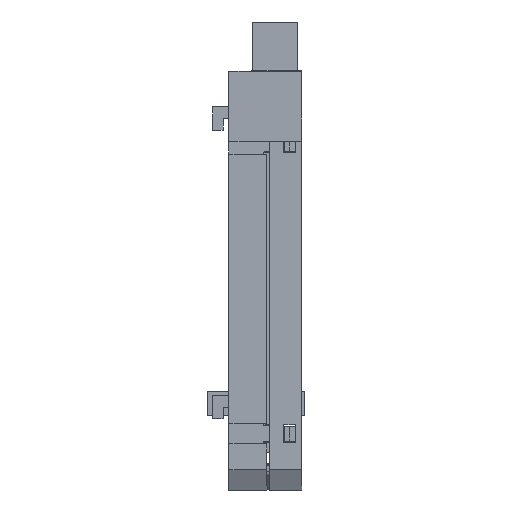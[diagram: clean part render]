
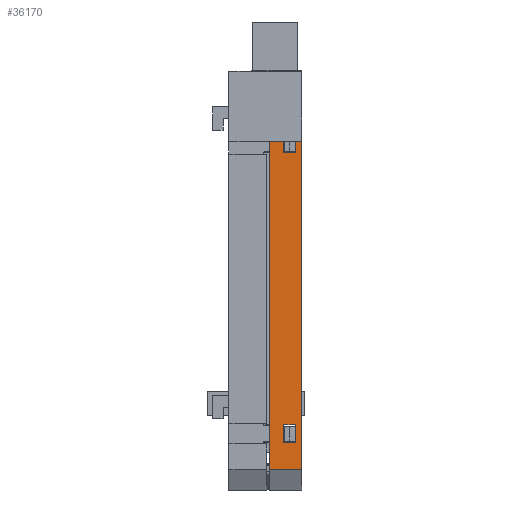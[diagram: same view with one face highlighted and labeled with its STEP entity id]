
A CAD part, front view. The second image highlights one B-rep face of the part: STEP entity #36170.
In plain terms, the highlighted planar face has unit normal (0, -1, 0).
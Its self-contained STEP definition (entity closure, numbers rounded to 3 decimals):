
#96 = VECTOR ( 'NONE', #32344, 1000. ) ;
#479 = CARTESIAN_POINT ( 'NONE',  ( 4.4, 0., -60.645 ) ) ;
#715 = FACE_BOUND ( 'NONE', #25592, .T. ) ;
#735 = ORIENTED_EDGE ( 'NONE', *, *, #24308, .T. ) ;
#1661 = CARTESIAN_POINT ( 'NONE',  ( 2.4, 0., -60.645 ) ) ;
#1747 = ORIENTED_EDGE ( 'NONE', *, *, #21640, .T. ) ;
#2006 = ORIENTED_EDGE ( 'NONE', *, *, #16057, .T. ) ;
#2907 = LINE ( 'NONE', #10638, #9647 ) ;
#2968 = VERTEX_POINT ( 'NONE', #5490 ) ;
#3314 = VERTEX_POINT ( 'NONE', #7544 ) ;
#3396 = DIRECTION ( 'NONE',  ( 0., 0., -1. ) ) ;
#3615 = ORIENTED_EDGE ( 'NONE', *, *, #21256, .F. ) ;
#3793 = CARTESIAN_POINT ( 'NONE',  ( 5.5, 0., 0. ) ) ;
#4006 = VECTOR ( 'NONE', #4195, 1000. ) ;
#4195 = DIRECTION ( 'NONE',  ( -1., 0., 0. ) ) ;
#4200 = ORIENTED_EDGE ( 'NONE', *, *, #27602, .T. ) ;
#4841 = CARTESIAN_POINT ( 'NONE',  ( 5.5, 0., 0. ) ) ;
#5054 = DIRECTION ( 'NONE',  ( 1., 0., 0. ) ) ;
#5216 = LINE ( 'NONE', #28704, #27255 ) ;
#5490 = CARTESIAN_POINT ( 'NONE',  ( 4.4, 0., -57.545 ) ) ;
#6316 = ORIENTED_EDGE ( 'NONE', *, *, #36355, .T. ) ;
#6372 = VERTEX_POINT ( 'NONE', #22595 ) ;
#6663 = LINE ( 'NONE', #7559, #21968 ) ;
#6917 = VERTEX_POINT ( 'NONE', #19158 ) ;
#6940 = VERTEX_POINT ( 'NONE', #7946 ) ;
#7259 = VERTEX_POINT ( 'NONE', #32941 ) ;
#7544 = CARTESIAN_POINT ( 'NONE',  ( 0., 0., 0. ) ) ;
#7559 = CARTESIAN_POINT ( 'NONE',  ( 2.4, 0., -7.845 ) ) ;
#7705 = DIRECTION ( 'NONE',  ( 0., 0., 1. ) ) ;
#7946 = CARTESIAN_POINT ( 'NONE',  ( 2.4, 0., -7.845 ) ) ;
#8354 = FACE_OUTER_BOUND ( 'NONE', #21696, .T. ) ;
#8439 = CARTESIAN_POINT ( 'NONE',  ( 5.5, 0., 0. ) ) ;
#8816 = VECTOR ( 'NONE', #26830, 1000. ) ;
#9482 = ORIENTED_EDGE ( 'NONE', *, *, #22439, .F. ) ;
#9647 = VECTOR ( 'NONE', #13540, 1000. ) ;
#9753 = EDGE_CURVE ( 'NONE', #33305, #3314, #14729, .T. ) ;
#10375 = EDGE_LOOP ( 'NONE', ( #20391, #10418, #735, #6316 ) ) ;
#10418 = ORIENTED_EDGE ( 'NONE', *, *, #29281, .T. ) ;
#10638 = CARTESIAN_POINT ( 'NONE',  ( 0., 0., 0. ) ) ;
#10856 = DIRECTION ( 'NONE',  ( 0., 0., 1. ) ) ;
#11853 = VERTEX_POINT ( 'NONE', #1661 ) ;
#12621 = VECTOR ( 'NONE', #3396, 1000. ) ;
#13540 = DIRECTION ( 'NONE',  ( 0., 0., -1. ) ) ;
#14004 = CARTESIAN_POINT ( 'NONE',  ( 4.4, 0., -10.945 ) ) ;
#14390 = CARTESIAN_POINT ( 'NONE',  ( 2.4, 0., -57.545 ) ) ;
#14458 = LINE ( 'NONE', #479, #12621 ) ;
#14729 = LINE ( 'NONE', #3793, #30896 ) ;
#15386 = LINE ( 'NONE', #18010, #96 ) ;
#15964 = AXIS2_PLACEMENT_3D ( 'NONE', #4841, #24972, #7705 ) ;
#16057 = EDGE_CURVE ( 'NONE', #31608, #2968, #35044, .T. ) ;
#16155 = PLANE ( 'NONE',  #15964 ) ;
#16951 = ORIENTED_EDGE ( 'NONE', *, *, #9753, .T. ) ;
#17004 = VERTEX_POINT ( 'NONE', #29121 ) ;
#18010 = CARTESIAN_POINT ( 'NONE',  ( 5.5, 0., 0. ) ) ;
#18261 = DIRECTION ( 'NONE',  ( -1., 0., 0. ) ) ;
#18446 = CARTESIAN_POINT ( 'NONE',  ( 0., 0., -65.25 ) ) ;
#18493 = VECTOR ( 'NONE', #25608, 1000. ) ;
#19158 = CARTESIAN_POINT ( 'NONE',  ( 5.5, 0., -65.25 ) ) ;
#19323 = LINE ( 'NONE', #21437, #4006 ) ;
#19881 = DIRECTION ( 'NONE',  ( 0., 0., -1. ) ) ;
#20391 = ORIENTED_EDGE ( 'NONE', *, *, #34325, .T. ) ;
#20892 = VERTEX_POINT ( 'NONE', #14004 ) ;
#21256 = EDGE_CURVE ( 'NONE', #33305, #6917, #15386, .T. ) ;
#21437 = CARTESIAN_POINT ( 'NONE',  ( 5.5, 0., -65.25 ) ) ;
#21640 = EDGE_CURVE ( 'NONE', #2968, #7259, #14458, .T. ) ;
#21696 = EDGE_LOOP ( 'NONE', ( #4200, #9482, #3615, #16951 ) ) ;
#21968 = VECTOR ( 'NONE', #36235, 1000. ) ;
#22280 = CARTESIAN_POINT ( 'NONE',  ( 2.4, 0., -57.545 ) ) ;
#22439 = EDGE_CURVE ( 'NONE', #6917, #30252, #19323, .T. ) ;
#22544 = VECTOR ( 'NONE', #19881, 1000. ) ;
#22595 = CARTESIAN_POINT ( 'NONE',  ( 4.4, 0., -7.845 ) ) ;
#22678 = CARTESIAN_POINT ( 'NONE',  ( 2.4, 0., -60.645 ) ) ;
#22790 = FACE_BOUND ( 'NONE', #10375, .T. ) ;
#24195 = ORIENTED_EDGE ( 'NONE', *, *, #26861, .T. ) ;
#24308 = EDGE_CURVE ( 'NONE', #6372, #20892, #30141, .T. ) ;
#24972 = DIRECTION ( 'NONE',  ( 0., 1., 0. ) ) ;
#25058 = LINE ( 'NONE', #29932, #8816 ) ;
#25592 = EDGE_LOOP ( 'NONE', ( #26195, #24195, #2006, #1747 ) ) ;
#25608 = DIRECTION ( 'NONE',  ( -1., 0., 0. ) ) ;
#26150 = LINE ( 'NONE', #22678, #18493 ) ;
#26195 = ORIENTED_EDGE ( 'NONE', *, *, #33273, .T. ) ;
#26830 = DIRECTION ( 'NONE',  ( 0., 0., 1. ) ) ;
#26861 = EDGE_CURVE ( 'NONE', #11853, #31608, #25058, .T. ) ;
#27255 = VECTOR ( 'NONE', #31585, 1000. ) ;
#27602 = EDGE_CURVE ( 'NONE', #3314, #30252, #2907, .T. ) ;
#28292 = CARTESIAN_POINT ( 'NONE',  ( 4.4, 0., -10.945 ) ) ;
#28704 = CARTESIAN_POINT ( 'NONE',  ( 2.4, 0., -10.945 ) ) ;
#29121 = CARTESIAN_POINT ( 'NONE',  ( 2.4, 0., -10.945 ) ) ;
#29281 = EDGE_CURVE ( 'NONE', #6940, #6372, #6663, .T. ) ;
#29932 = CARTESIAN_POINT ( 'NONE',  ( 2.4, 0., -60.645 ) ) ;
#30121 = VECTOR ( 'NONE', #10856, 1000. ) ;
#30141 = LINE ( 'NONE', #28292, #22544 ) ;
#30252 = VERTEX_POINT ( 'NONE', #18446 ) ;
#30896 = VECTOR ( 'NONE', #18261, 1000. ) ;
#30977 = CARTESIAN_POINT ( 'NONE',  ( 2.4, 0., -10.945 ) ) ;
#31033 = LINE ( 'NONE', #30977, #30121 ) ;
#31585 = DIRECTION ( 'NONE',  ( -1., 0., 0. ) ) ;
#31608 = VERTEX_POINT ( 'NONE', #14390 ) ;
#32344 = DIRECTION ( 'NONE',  ( 0., 0., -1. ) ) ;
#32941 = CARTESIAN_POINT ( 'NONE',  ( 4.4, 0., -60.645 ) ) ;
#33273 = EDGE_CURVE ( 'NONE', #7259, #11853, #26150, .T. ) ;
#33305 = VERTEX_POINT ( 'NONE', #8439 ) ;
#34325 = EDGE_CURVE ( 'NONE', #17004, #6940, #31033, .T. ) ;
#35044 = LINE ( 'NONE', #22280, #35938 ) ;
#35938 = VECTOR ( 'NONE', #5054, 1000. ) ;
#36170 = ADVANCED_FACE ( 'NONE', ( #22790, #715, #8354 ), #16155, .F. ) ;
#36235 = DIRECTION ( 'NONE',  ( 1., 0., 0. ) ) ;
#36355 = EDGE_CURVE ( 'NONE', #20892, #17004, #5216, .T. ) ;
